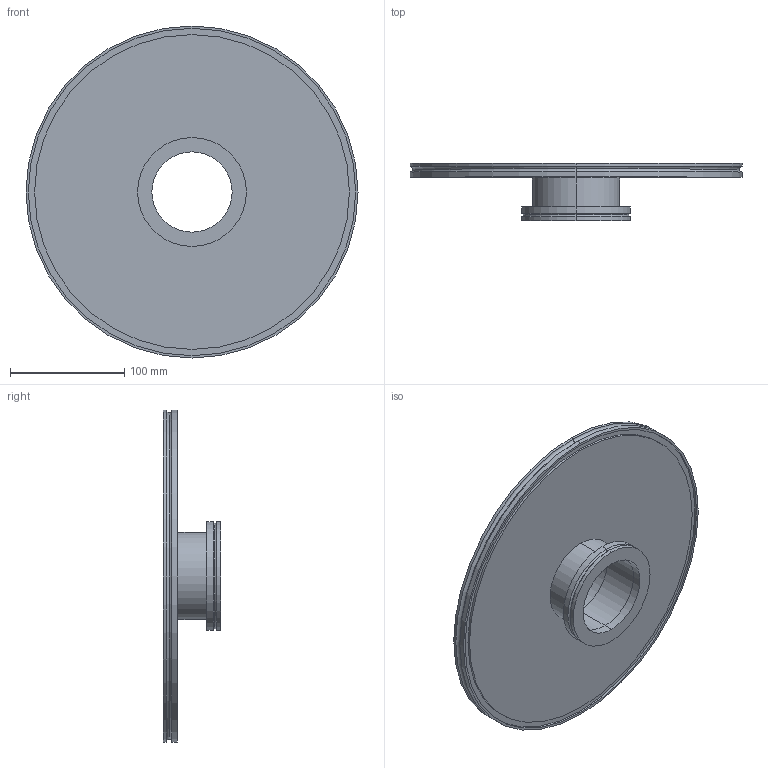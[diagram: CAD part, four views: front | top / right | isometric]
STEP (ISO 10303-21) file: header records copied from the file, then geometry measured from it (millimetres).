
FILE_DESCRIPTION (( 'STEP AP214' ), '1' );
FILE_NAME ('W4RS63-250.STEP', '2020-10-06T08:20:44', ( '' ), ( '' ), 'SwSTEP 2.0', 'SolidWorks 2020', '' );
FILE_SCHEMA (( 'AUTOMOTIVE_DESIGN' ));
Length unit declared in the file: millimetre
Products named in the file (1): W4RS63-250
Bounding box: 290 x 50 x 290 mm (x, y, z)
Volume: 761164.3 mm3; surface area: 180693.3 mm2
Topology: 3 solids, 3 shells, 51 faces, 102 edges, 64 vertices
Faces by surface type: cylinder 30, plane 13, torus 8
Entity records: 1416 total; most frequent: DIRECTION 278, CARTESIAN_POINT 218, ORIENTED_EDGE 204, AXIS2_PLACEMENT_3D 124, EDGE_CURVE 102, CIRCLE 72, EDGE_LOOP 64, VERTEX_POINT 64
